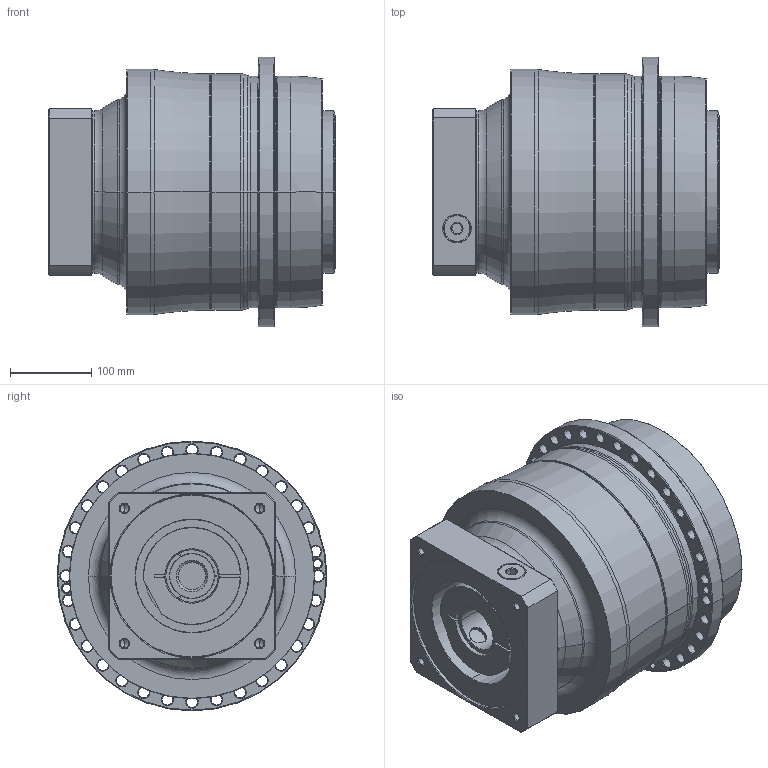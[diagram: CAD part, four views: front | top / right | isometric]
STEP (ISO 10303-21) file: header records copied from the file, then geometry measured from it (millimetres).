
FILE_DESCRIPTION((''),'2;1');
FILE_NAME('AP285_2ST_55-P0409C00201_ASM','2018-05-30T',('d01226'),(''),'PRO/ENGINEER BY PARAMETRIC TECHNOLOGY CORPORATION, 2008410','PRO/ENGINEER BY PARAMETRIC TECHNOLOGY CORPORATION, 2008410','');
FILE_SCHEMA(('CONFIG_CONTROL_DESIGN'));
Length unit declared in the file: millimetre
Products named in the file (9): P0278801003; P0359801103; P1317810401; P0503C00016; P0912704001; P1211800001; P0409C00201; 21711426021; AP285_2ST_55-P0409C00201_ASM
Assembly tree (8 placements, depth 2):
  AP285_2ST_55-P0409C00201_ASM
    P0278801003
    P0359801103
    P1317810401
    P0503C00016
    P0912704001
    P1211800001
    P0409C00201
    21711426021
Bounding box: 353 x 332 x 332 mm (x, y, z)
Volume: 17617205.6 mm3; surface area: 1081980.5 mm2
Topology: 9 solids, 32 shells, 681 faces, 1573 edges, 956 vertices
Faces by surface type: cylinder 270, cone 218, plane 101, torus 76, bspline 16
Entity records: 24425 total; most frequent: CARTESIAN_POINT 8098, DIRECTION 3767, ORIENTED_EDGE 3036, AXIS2_PLACEMENT_3D 1607, EDGE_CURVE 1565, VERTEX_POINT 956, CIRCLE 913, EDGE_LOOP 843
